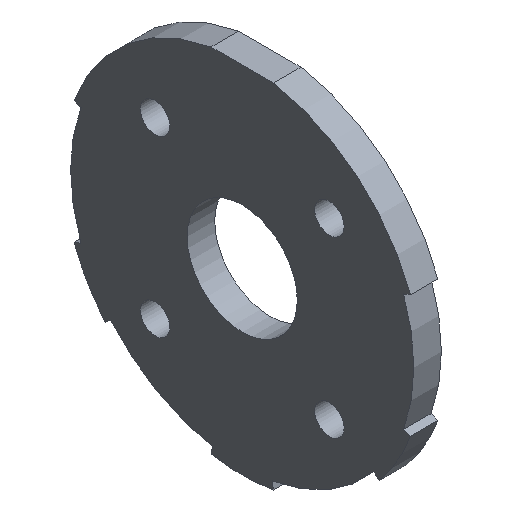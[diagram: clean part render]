
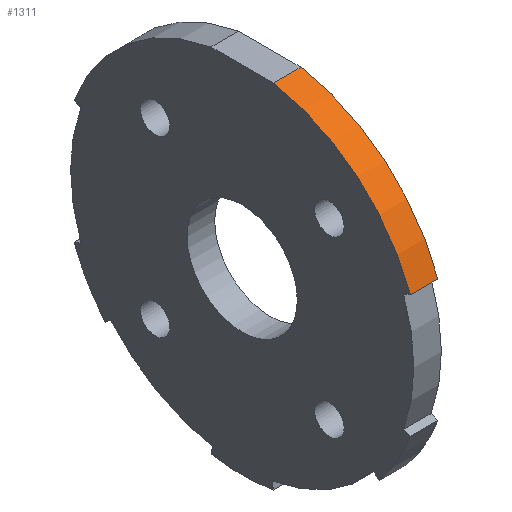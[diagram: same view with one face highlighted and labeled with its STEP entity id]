
A CAD part, isometric view. The second image highlights one B-rep face of the part: STEP entity #1311.
In plain terms, the highlighted cylindrical face has radius 19.5 mm (diameter 39 mm), a partial arc.
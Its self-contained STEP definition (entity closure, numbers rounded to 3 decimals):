
#43 = PLANE('',#44);
#44 = AXIS2_PLACEMENT_3D('',#45,#46,#47);
#45 = CARTESIAN_POINT('',(435.35,0.6,19.2));
#46 = DIRECTION('',(0.,0.,1.));
#47 = DIRECTION('',(-1.,-0.012,
    0.));
#71 = PLANE('',#72);
#72 = AXIS2_PLACEMENT_3D('',#73,#74,#75);
#73 = CARTESIAN_POINT('',(398.9,0.,0.));
#74 = DIRECTION('',(1.,0.,0.));
#75 = DIRECTION('',(-0.,0.,1.));
#124 = PLANE('',#125);
#125 = AXIS2_PLACEMENT_3D('',#126,#127,#128);
#126 = CARTESIAN_POINT('',(395.9,0.,0.));
#127 = DIRECTION('',(1.,0.,0.));
#128 = DIRECTION('',(-0.,0.,1.));
#141 = VERTEX_POINT('',#142);
#142 = CARTESIAN_POINT('',(395.9,-3.407,19.2));
#161 = EDGE_CURVE('',#141,#162,#164,.T.);
#162 = VERTEX_POINT('',#163);
#163 = CARTESIAN_POINT('',(398.9,-3.407,19.2));
#164 = SURFACE_CURVE('',#165,(#169,#175),.PCURVE_S1.);
#165 = LINE('',#166,#167);
#166 = CARTESIAN_POINT('',(395.9,-3.407,19.2));
#167 = VECTOR('',#168,1.);
#168 = DIRECTION('',(1.,0.,0.));
#169 = PCURVE('',#43,#170);
#170 = DEFINITIONAL_REPRESENTATION('',(#171),#174);
#171 = B_SPLINE_CURVE_WITH_KNOTS('',1,(#172,#173),.UNSPECIFIED.,.F.,.F.,
  (2,2),(0.,3.),.PIECEWISE_BEZIER_KNOTS.);
#172 = CARTESIAN_POINT('',(39.495,3.537));
#173 = CARTESIAN_POINT('',(36.495,3.572));
#174 = ( GEOMETRIC_REPRESENTATION_CONTEXT(2) 
PARAMETRIC_REPRESENTATION_CONTEXT() REPRESENTATION_CONTEXT('2D SPACE',''
  ) );
#175 = PCURVE('',#176,#181);
#176 = CYLINDRICAL_SURFACE('',#177,19.5);
#177 = AXIS2_PLACEMENT_3D('',#178,#179,#180);
#178 = CARTESIAN_POINT('',(395.9,0.,0.));
#179 = DIRECTION('',(1.,0.,0.));
#180 = DIRECTION('',(-0.,0.,1.));
#181 = DEFINITIONAL_REPRESENTATION('',(#182),#185);
#182 = B_SPLINE_CURVE_WITH_KNOTS('',1,(#183,#184),.UNSPECIFIED.,.F.,.F.,
  (2,2),(0.,3.),.PIECEWISE_BEZIER_KNOTS.);
#183 = CARTESIAN_POINT('',(0.176,0.));
#184 = CARTESIAN_POINT('',(0.176,3.));
#185 = ( GEOMETRIC_REPRESENTATION_CONTEXT(2) 
PARAMETRIC_REPRESENTATION_CONTEXT() REPRESENTATION_CONTEXT('2D SPACE',''
  ) );
#316 = EDGE_CURVE('',#141,#317,#319,.T.);
#317 = VERTEX_POINT('',#318);
#318 = CARTESIAN_POINT('',(395.9,-18.324,6.669));
#319 = SURFACE_CURVE('',#320,(#325,#332),.PCURVE_S1.);
#320 = CIRCLE('',#321,19.5);
#321 = AXIS2_PLACEMENT_3D('',#322,#323,#324);
#322 = CARTESIAN_POINT('',(395.9,0.,0.));
#323 = DIRECTION('',(1.,0.,0.));
#324 = DIRECTION('',(-0.,0.,1.));
#325 = PCURVE('',#124,#326);
#326 = DEFINITIONAL_REPRESENTATION('',(#327),#331);
#327 = CIRCLE('',#328,19.5);
#328 = AXIS2_PLACEMENT_2D('',#329,#330);
#329 = CARTESIAN_POINT('',(0.,0.));
#330 = DIRECTION('',(1.,0.));
#331 = ( GEOMETRIC_REPRESENTATION_CONTEXT(2) 
PARAMETRIC_REPRESENTATION_CONTEXT() REPRESENTATION_CONTEXT('2D SPACE',''
  ) );
#332 = PCURVE('',#176,#333);
#333 = DEFINITIONAL_REPRESENTATION('',(#334),#338);
#334 = LINE('',#335,#336);
#335 = CARTESIAN_POINT('',(0.,0.));
#336 = VECTOR('',#337,1.);
#337 = DIRECTION('',(1.,0.));
#338 = ( GEOMETRIC_REPRESENTATION_CONTEXT(2) 
PARAMETRIC_REPRESENTATION_CONTEXT() REPRESENTATION_CONTEXT('2D SPACE',''
  ) );
#355 = PLANE('',#356);
#356 = AXIS2_PLACEMENT_3D('',#357,#358,#359);
#357 = CARTESIAN_POINT('',(394.9,0.,0.));
#358 = DIRECTION('',(0.,-0.342,-0.94));
#359 = DIRECTION('',(0.,-0.94,0.342));
#914 = EDGE_CURVE('',#162,#915,#917,.T.);
#915 = VERTEX_POINT('',#916);
#916 = CARTESIAN_POINT('',(398.9,-18.324,6.669));
#917 = SURFACE_CURVE('',#918,(#923,#930),.PCURVE_S1.);
#918 = CIRCLE('',#919,19.5);
#919 = AXIS2_PLACEMENT_3D('',#920,#921,#922);
#920 = CARTESIAN_POINT('',(398.9,0.,0.));
#921 = DIRECTION('',(1.,0.,0.));
#922 = DIRECTION('',(-0.,0.,1.));
#923 = PCURVE('',#71,#924);
#924 = DEFINITIONAL_REPRESENTATION('',(#925),#929);
#925 = CIRCLE('',#926,19.5);
#926 = AXIS2_PLACEMENT_2D('',#927,#928);
#927 = CARTESIAN_POINT('',(0.,0.));
#928 = DIRECTION('',(1.,0.));
#929 = ( GEOMETRIC_REPRESENTATION_CONTEXT(2) 
PARAMETRIC_REPRESENTATION_CONTEXT() REPRESENTATION_CONTEXT('2D SPACE',''
  ) );
#930 = PCURVE('',#176,#931);
#931 = DEFINITIONAL_REPRESENTATION('',(#932),#936);
#932 = LINE('',#933,#934);
#933 = CARTESIAN_POINT('',(0.,3.));
#934 = VECTOR('',#935,1.);
#935 = DIRECTION('',(1.,0.));
#936 = ( GEOMETRIC_REPRESENTATION_CONTEXT(2) 
PARAMETRIC_REPRESENTATION_CONTEXT() REPRESENTATION_CONTEXT('2D SPACE',''
  ) );
#1311 = ADVANCED_FACE('',(#1312),#176,.T.);
#1312 = FACE_BOUND('',#1313,.T.);
#1313 = EDGE_LOOP('',(#1314,#1315,#1316,#1317));
#1314 = ORIENTED_EDGE('',*,*,#914,.F.);
#1315 = ORIENTED_EDGE('',*,*,#161,.F.);
#1316 = ORIENTED_EDGE('',*,*,#316,.T.);
#1317 = ORIENTED_EDGE('',*,*,#1318,.T.);
#1318 = EDGE_CURVE('',#317,#915,#1319,.T.);
#1319 = SURFACE_CURVE('',#1320,(#1324,#1330),.PCURVE_S1.);
#1320 = LINE('',#1321,#1322);
#1321 = CARTESIAN_POINT('',(395.9,-18.324,6.669));
#1322 = VECTOR('',#1323,1.);
#1323 = DIRECTION('',(1.,0.,0.));
#1324 = PCURVE('',#176,#1325);
#1325 = DEFINITIONAL_REPRESENTATION('',(#1326),#1329);
#1326 = B_SPLINE_CURVE_WITH_KNOTS('',1,(#1327,#1328),.UNSPECIFIED.,.F.,
  .F.,(2,2),(0.,3.),.PIECEWISE_BEZIER_KNOTS.);
#1327 = CARTESIAN_POINT('',(1.222,0.));
#1328 = CARTESIAN_POINT('',(1.222,3.));
#1329 = ( GEOMETRIC_REPRESENTATION_CONTEXT(2) 
PARAMETRIC_REPRESENTATION_CONTEXT() REPRESENTATION_CONTEXT('2D SPACE',''
  ) );
#1330 = PCURVE('',#355,#1331);
#1331 = DEFINITIONAL_REPRESENTATION('',(#1332),#1335);
#1332 = B_SPLINE_CURVE_WITH_KNOTS('',1,(#1333,#1334),.UNSPECIFIED.,.F.,
  .F.,(2,2),(0.,3.),.PIECEWISE_BEZIER_KNOTS.);
#1333 = CARTESIAN_POINT('',(19.5,-1.));
#1334 = CARTESIAN_POINT('',(19.5,-4.));
#1335 = ( GEOMETRIC_REPRESENTATION_CONTEXT(2) 
PARAMETRIC_REPRESENTATION_CONTEXT() REPRESENTATION_CONTEXT('2D SPACE',''
  ) );
